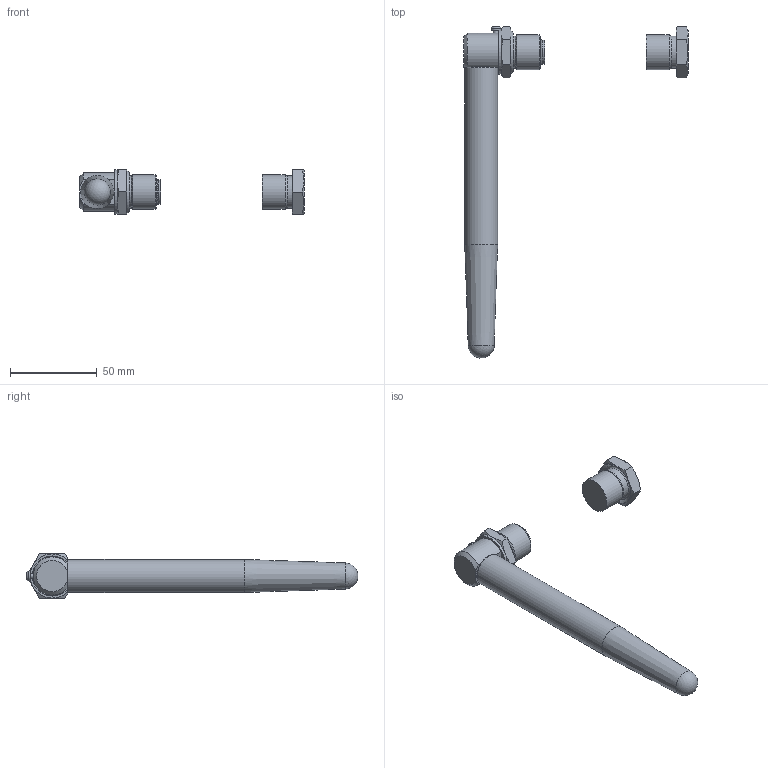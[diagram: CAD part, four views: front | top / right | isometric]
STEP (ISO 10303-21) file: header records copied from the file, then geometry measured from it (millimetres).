
FILE_DESCRIPTION(/* description */ (''),/* implementation_level */ '2;1');
FILE_NAME(/* name */ 'F:\Area\Desenvolvimento_2\Projects\Sensor\projetos\LD400W\dimensionais 3d clientes\kit antena wireless e tampão M20.stp',/* time_stamp */ '2023-02-02T14:56:12-03:00',/* author */ ('inventor02'),/* organization */ (''),/* preprocessor_version */ 'ST-DEVELOPER v17',/* originating_system */ 'Autodesk Inventor 2019',/* authorisation */ '');
FILE_SCHEMA (('CONFIG_CONTROL_DESIGN'));
Length unit declared in the file: millimetre
Products named in the file (9): kit antena wireless e tampão M20; 101-B-6899-00; 101-B-6901-00; 201-A-0984-00; 101-B-6900-00; ANSI B18.6.7M - M3x0,5 x 5; Oring 2116; Oring 2013_e; Bujão M20 sem texto
Assembly tree (8 placements, depth 2):
  kit antena wireless e tampão M20
    101-B-6899-00
    101-B-6901-00
    201-A-0984-00
    101-B-6900-00
    ANSI B18.6.7M - M3x0,5 x 5
    Oring 2116
    Oring 2013_e
    Bujão M20 sem texto
Bounding box: 129 x 190.82 x 25.4 mm (x, y, z)
Volume: 50038 mm3; surface area: 30699.5 mm2
Topology: 8 solids, 8 shells, 160 faces, 446 edges, 313 vertices
Faces by surface type: plane 56, cone 44, cylinder 31, torus 27, sphere 2
Full cylindrical faces by diameter (mm): 2.459 x1, 3 x1, 5.6 x1, 9 x1, 9.5 x1, 11 x2, 11.2 x3, 11.4 x1, 12 x2, 12.4 x1, 12.966 x1, 13.8 x1, 13.9 x5, 14 x2, 18.48 x1, 18.5 x1, 19 x1, 20 x2, 23 x1, 25.4 x1
Entity records: 5981 total; most frequent: CARTESIAN_POINT 1410, DIRECTION 993, ORIENTED_EDGE 886, AXIS2_PLACEMENT_3D 455, EDGE_CURVE 443, VERTEX_POINT 313, CIRCLE 269, EDGE_LOOP 184
